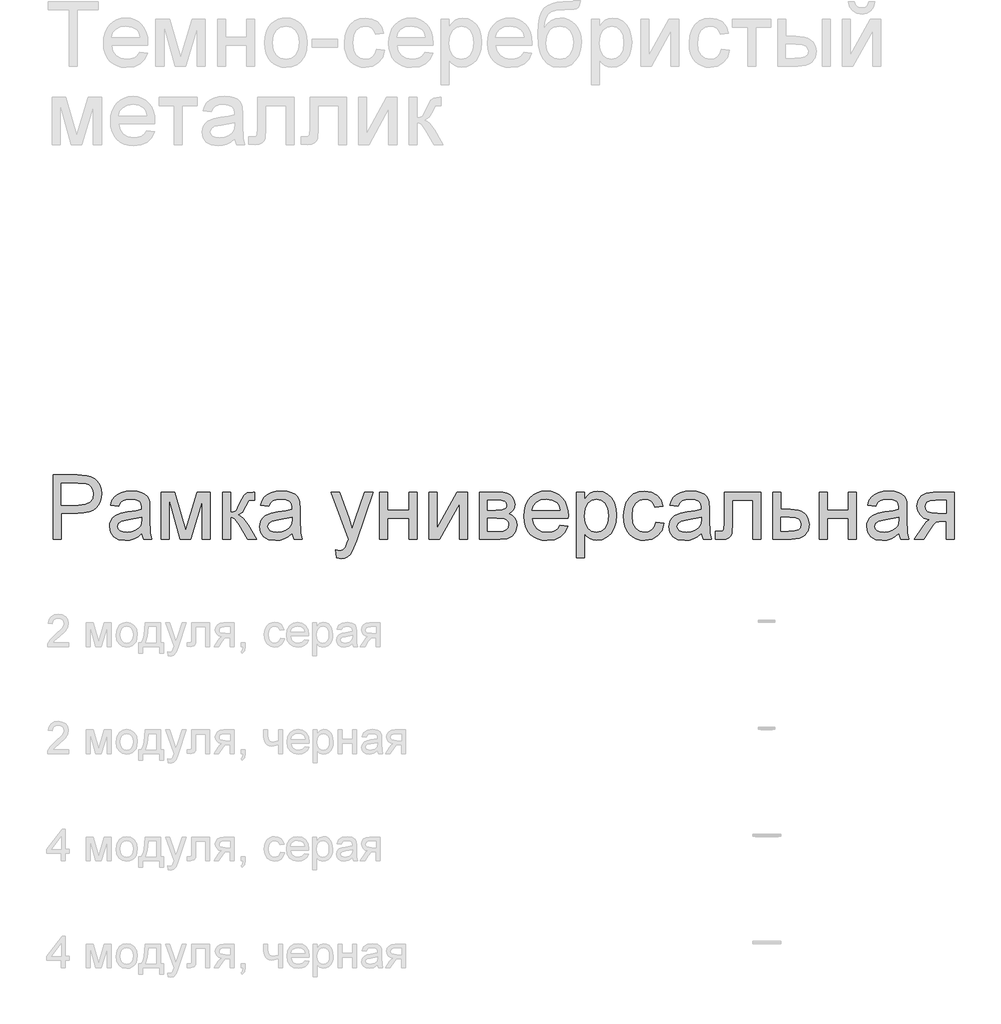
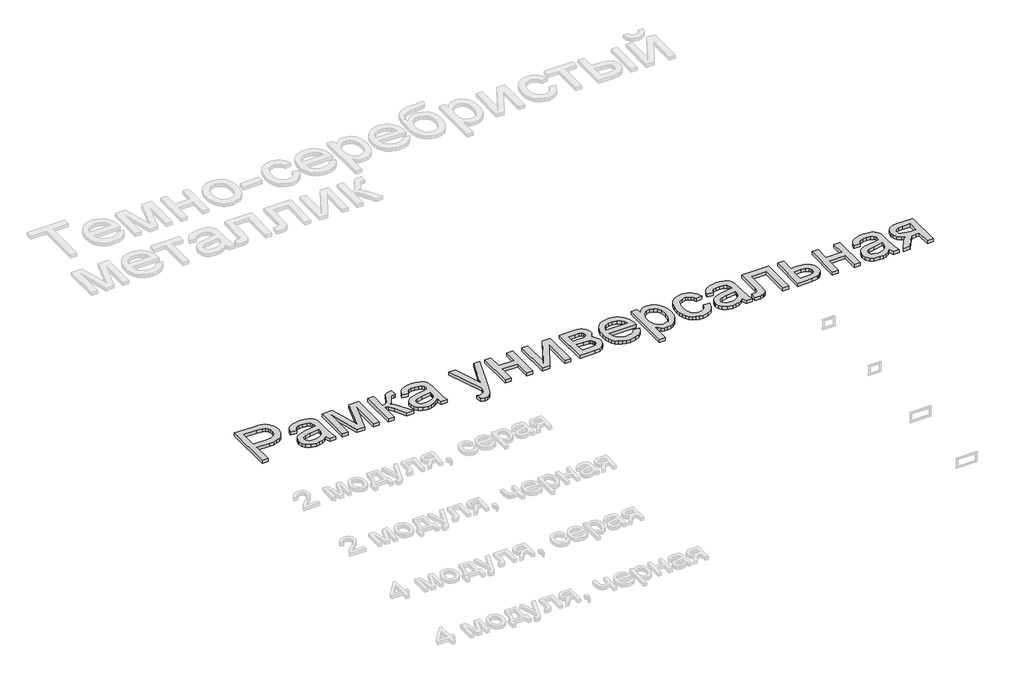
# One storey, part 7 of 168: 1 proxy.
"""IFC4 building model written with IfcOpenShell, lengths in millimetres."""

from ifc_helpers import new_model, si_unit, origin, origin_with_axes, place, context, project, spatial, polyline, outline, extrude, element, save

model = new_model("IFC4")

# Units and contexts
model_context = context("Model", 3, world=origin())
ifc_project = project(units=[si_unit("LENGTHUNIT", "METRE", prefix="MILLI")], contexts=[model_context])

# Site, building, storey
site = spatial("IfcSite", under=ifc_project)
building = spatial("IfcBuilding", under=site)
storey = spatial("IfcBuildingStorey", under=building, Name="Этаж 01", Elevation=0.0)

# Proxy
placement = place(None, origin())
element("IfcBuildingElementProxy", 1, Name="300 мм Arial 2", ObjectType="300 мм Arial 2", at=placement, inside=storey, context=model_context, shape_type="SweptSolid", body=[
    extrude(outline(polyline([(778.8177316, -43175.2343796), (778.8177316, -42873.8654491), (890.5067053, -42873.8654491), (935.5354615, -42876.7349287), (955.6126214, -42882.0968088), (972.13972, -42890.8248091), (985.4478512, -42903.3144029), (995.8681087, -42919.9610631), (1002.6003492, -42939.5967646), (1004.8444294, -42961.053482), (1003.3292154, -42979.5533478), (998.7835735, -42996.5724886), (991.2075037, -43012.1109044), (980.6010059, -43026.1685951), (966.0397767, -43037.8212573), (946.5995125, -43046.1445875), (922.2802134, -43051.1385856), (893.0818793, -43052.8032516), (816.4888479, -43052.8032516), (816.4888479, -43175.2343796), (778.8177316, -43175.2343796)]), holes=[polyline([(816.4888479, -43015.1321353), (895.2891712, -43015.1321353), (928.6928564, -43011.6740445), (950.7657761, -43001.2997723), (963.0714288, -42984.653112), (967.1733131, -42962.3778572), (964.754489, -42945.4552854), (957.4980166, -42931.181464), (946.3052069, -42920.4393097), (932.0773708, -42914.1117394), (894.4062544, -42911.5365655), (816.4888479, -42911.5365655), (816.4888479, -43015.1321353)])]), origin_with_axes(), (0.0, 0.0, 1.0), 20.0),
    extrude(outline(polyline([(1193.2000109, -43146.9810424), (1175.2013843, -43162.4136921), (1156.6693288, -43172.5120528), (1137.1807801, -43178.0854651), (1116.3126739, -43179.9432691), (1084.8311722, -43175.4735029), (1061.6086213, -43162.0642042), (1047.2888146, -43141.7019357), (1042.5155457, -43116.3732604), (1044.3181675, -43100.7566697), (1049.7260328, -43086.5748188), (1058.0677571, -43074.4347129), (1068.6719556, -43064.9433574), (1095.0490946, -43052.5825224), (1127.6434394, -43046.9171397), (1166.1606843, -43040.9574514), (1192.9792817, -43033.9676934), (1193.2000109, -43025.579984), (1190.6064429, -43008.7677768), (1182.8257387, -42997.7681051), (1165.4249203, -42989.6011248), (1141.1814968, -42986.8787981), (1118.7406951, -42988.6906169), (1103.0689221, -42994.1260734), (1092.3819502, -43004.1784489), (1084.8955515, -43019.8410248), (1047.2244352, -43015.1321353), (1053.7635377, -42994.5307436), (1063.5216076, -42978.3439358), (1077.4091529, -42965.9647066), (1096.3366816, -42956.7860509), (1119.4856561, -42951.102274), (1146.0375391, -42949.2076818), (1171.5041703, -42950.8815448), (1191.6916947, -42955.9031341), (1206.9128123, -42963.453912), (1217.4802226, -42972.7153412), (1224.4883746, -42984.1656683), (1229.0317173, -42998.2831399), (1230.8711272, -43031.2453667), (1230.8711272, -43078.1135329), (1232.7841136, -43143.5597398), (1240.2889063, -43175.2343796), (1202.61779, -43175.2343796), (1193.2000109, -43146.9810424)]), holes=[polyline([(1193.2000109, -43071.6388098), (1132.4259053, -43083.1903044), (1100.0155016, -43089.2971455), (1085.3370099, -43099.2299594), (1080.186662, -43113.72451), (1082.9917622, -43124.9265168), (1091.4070629, -43134.1051725), (1105.2486229, -43140.2304078), (1124.3325014, -43142.2721528), (1144.5660112, -43140.0188756), (1162.4450761, -43133.2590439), (1176.9396267, -43123.2986389), (1187.0195934, -43111.4436416), (1191.4893597, -43099.2299594), (1192.9792817, -43082.3073876), (1193.2000109, -43071.6388098)])]), origin_with_axes(), (0.0, 0.0, 1.0), 20.0),
    extrude(outline(polyline([(1282.6689122, -42953.9165713), (1347.4897197, -42953.9165713), (1397.4480947, -43131.0885402), (1451.3060187, -42953.9165713), (1513.4044995, -42953.9165713), (1513.4044995, -43175.2343796), (1475.7333832, -43175.2343796), (1475.7333832, -42997.0323411), (1421.5811535, -43175.2343796), (1372.1378134, -43175.2343796), (1320.3400285, -42988.4974788), (1320.3400285, -43175.2343796), (1282.6689122, -43175.2343796), (1282.6689122, -42953.9165713)])), origin_with_axes(), (0.0, 0.0, 1.0), 20.0),
    extrude(outline(polyline([(1569.911174, -42953.9165713), (1607.5822903, -42953.9165713), (1607.5822903, -43048.0943621), (1622.9045754, -43046.4021049), (1632.8189952, -43041.3253333), (1641.5929808, -43028.0815815), (1653.4939633, -43001.8883835), (1670.6740525, -42967.8592989), (1685.8307907, -42956.7860509), (1713.3851521, -42953.9165713), (1720.5956392, -42953.9165713), (1720.5956392, -42991.8084168), (1710.4420961, -42991.5876876), (1692.0479964, -42995.5608131), (1679.0985502, -43020.3560596), (1663.9050238, -43047.1746571), (1642.6046562, -43060.3080443), (1654.542427, -43065.6101436), (1666.3698331, -43074.9681418), (1689.6935516, -43105.8518353), (1730.0134183, -43175.2343796), (1687.1919541, -43175.2343796), (1647.6814278, -43107.3233633), (1627.8158, -43078.5917795), (1618.5267797, -43073.3770522), (1607.5822903, -43071.6388098), (1607.5822903, -43175.2343796), (1569.911174, -43175.2343796), (1569.911174, -42953.9165713)])), origin_with_axes(), (0.0, 0.0, 1.0), 20.0),
    extrude(outline(polyline([(1894.8245521, -43146.9810424), (1876.8259255, -43162.4136921), (1858.29387, -43172.5120528), (1838.8053213, -43178.0854651), (1817.9372151, -43179.9432691), (1786.4557134, -43175.4735029), (1763.2331625, -43162.0642042), (1748.9133558, -43141.7019357), (1744.1400869, -43116.3732604), (1745.9427087, -43100.7566697), (1751.350574, -43086.5748188), (1759.6922983, -43074.4347129), (1770.2964968, -43064.9433574), (1796.6736358, -43052.5825224), (1829.2679806, -43046.9171397), (1867.7852255, -43040.9574514), (1894.6038229, -43033.9676934), (1894.8245521, -43025.579984), (1892.2309841, -43008.7677768), (1884.4502799, -42997.7681051), (1867.0494615, -42989.6011248), (1842.806038, -42986.8787981), (1820.3652363, -42988.6906169), (1804.6934633, -42994.1260734), (1794.0064914, -43004.1784489), (1786.5200928, -43019.8410248), (1748.8489764, -43015.1321353), (1755.3880789, -42994.5307436), (1765.1461488, -42978.3439358), (1779.0336941, -42965.9647066), (1797.9612228, -42956.7860509), (1821.1101973, -42951.102274), (1847.6620803, -42949.2076818), (1873.1287115, -42950.8815448), (1893.316236, -42955.9031341), (1908.5373535, -42963.453912), (1919.1047638, -42972.7153412), (1926.1129158, -42984.1656683), (1930.6562585, -42998.2831399), (1932.4956684, -43031.2453667), (1932.4956684, -43078.1135329), (1934.4086548, -43143.5597398), (1941.9134475, -43175.2343796), (1904.2423312, -43175.2343796), (1894.8245521, -43146.9810424)]), holes=[polyline([(1894.8245521, -43071.6388098), (1834.0504465, -43083.1903044), (1801.6400428, -43089.2971455), (1786.9615511, -43099.2299594), (1781.8112032, -43113.72451), (1784.6163034, -43124.9265168), (1793.0316041, -43134.1051725), (1806.8731641, -43140.2304078), (1825.9570426, -43142.2721528), (1846.1905524, -43140.0188756), (1864.0696173, -43133.2590439), (1878.5641679, -43123.2986389), (1888.6441346, -43111.4436416), (1893.1139009, -43099.2299594), (1894.6038229, -43082.3073876), (1894.8245521, -43071.6388098)])]), origin_with_axes(), (0.0, 0.0, 1.0), 20.0),
    extrude(outline(polyline([(2102.0156918, -43259.9943913), (2097.3068023, -43223.7212266), (2116.436666, -43227.0321645), (2134.315731, -43222.875098), (2145.2786144, -43211.2868151), (2155.5793103, -43183.5485127), (2158.5223663, -43174.4250392), (2078.4712441, -42953.9165713), (2118.2024996, -42953.9165713), (2160.6560818, -43076.7891577), (2175.4449381, -43125.9381922), (2190.2337943, -43082.5281168), (2233.8645989, -42953.9165713), (2273.3015488, -42953.9165713), (2196.267059, -43180.5318803), (2176.2542784, -43229.6809149), (2166.0087649, -43245.371082), (2154.4020879, -43256.2419949), (2140.9192128, -43262.5879593), (2125.0451047, -43264.7032808), (2102.0156918, -43259.9943913)])), origin_with_axes(), (0.0, 0.0, 1.0), 20.0),
    extrude(outline(polyline([(2304.497942, -42953.9165713), (2342.1690583, -42953.9165713), (2342.1690583, -43038.676583), (2441.0557386, -43038.676583), (2441.0557386, -42953.9165713), (2478.7268549, -42953.9165713), (2478.7268549, -43175.2343796), (2441.0557386, -43175.2343796), (2441.0557386, -43076.3476993), (2342.1690583, -43076.3476993), (2342.1690583, -43175.2343796), (2304.497942, -43175.2343796), (2304.497942, -42953.9165713)])), origin_with_axes(), (0.0, 0.0, 1.0), 20.0),
    extrude(outline(polyline([(2535.2335293, -42953.9165713), (2572.9046456, -42953.9165713), (2572.9046456, -43122.7008307), (2665.4637556, -42953.9165713), (2714.1713318, -42953.9165713), (2714.1713318, -43175.2343796), (2676.5002155, -43175.2343796), (2676.5002155, -43007.4801898), (2584.5297167, -43175.2343796), (2535.2335293, -43175.2343796), (2535.2335293, -42953.9165713)])), origin_with_axes(), (0.0, 0.0, 1.0), 20.0),
    extrude(outline(polyline([(2770.6780062, -42953.9165713), (2853.6721844, -42953.9165713), (2880.3528261, -42955.1765671), (2899.1791872, -42958.9565546), (2913.0299443, -42966.0934653), (2924.783774, -42977.4242308), (2932.8127986, -42992.1854958), (2935.4891401, -43009.6139054), (2933.8704593, -43023.6578005), (2929.014417, -43035.7703152), (2920.902619, -43046.0066317), (2909.5166712, -43054.4219324), (2923.4593988, -43062.2486218), (2934.8269525, -43074.8393831), (2942.3869275, -43091.2009348), (2944.9069192, -43110.3399956), (2938.5241665, -43139.0531854), (2923.3490342, -43159.268301), (2899.32634, -43171.2428599), (2866.4009014, -43175.2343796), (2770.6780062, -43175.2343796), (2770.6780062, -42953.9165713)]), holes=[polyline([(2808.3491226, -43038.676583), (2845.5787805, -43038.676583), (2876.2969271, -43036.7635966), (2891.2329361, -43029.1116511), (2896.1717519, -43022.7840808), (2897.8180238, -43015.2792881), (2894.9301501, -43004.0404931), (2886.2665291, -42996.8116119), (2870.6131502, -42992.8936687), (2846.7560029, -42991.5876876), (2808.3491226, -42991.5876876), (2808.3491226, -43038.676583)]), polyline([(2808.3491226, -43137.5632633), (2854.5551011, -43137.5632633), (2879.7366237, -43135.8618091), (2895.5371554, -43130.7574464), (2904.0168354, -43121.477623), (2907.2358029, -43107.2497869), (2905.6263191, -43097.8228108), (2900.7978679, -43089.1132045), (2893.3850457, -43082.2981906), (2884.022449, -43078.5549913), (2850.8762812, -43076.3476993), (2808.3491226, -43076.3476993), (2808.3491226, -43137.5632633)])]), origin_with_axes(), (0.0, 0.0, 1.0), 20.0),
    extrude(outline(polyline([(3146.9477109, -43109.3099261), (3183.8830632, -43114.0188156), (3170.5749321, -43141.8490885), (3149.3389439, -43162.6528154), (3120.6533453, -43175.6206557), (3084.9963829, -43179.9432691), (3061.6220807, -43178.0785673), (3040.7953612, -43172.4844617), (3022.5162246, -43163.1609524), (3006.7846708, -43150.1080393), (2994.1341286, -43133.689006), (2985.0980271, -43114.2671359), (2979.6763662, -43091.8424291), (2977.8691459, -43066.4148854), (2979.6947603, -43040.1251183), (2985.1716035, -43016.9531512), (2994.2996755, -42996.8989839), (3007.0789763, -42979.9626166), (3022.7691434, -42966.5073326), (3040.6298143, -42956.8964155), (3060.6609889, -42951.1298652), (3082.8626674, -42949.2076818), (3104.3492751, -42951.1252667), (3123.7803423, -42956.8780214), (3141.1558688, -42966.4659459), (3156.4758546, -42979.8890402), (3168.9815432, -42996.7886193), (3177.9141779, -43016.8059984), (3183.2737587, -43039.9411773), (3185.0602856, -43066.1941562), (3184.8395564, -43076.3476993), (3015.5402622, -43076.3476993), (3022.0609706, -43104.5458542), (3037.2085118, -43125.2760046), (3059.0698993, -43138.0231158), (3085.7321469, -43142.2721528), (3105.7817157, -43140.3039842), (3122.6674992, -43134.3994781), (3136.3894977, -43124.1907528), (3146.9477109, -43109.3099261)]), holes=[polyline([(3015.5402622, -43038.676583), (3147.3891693, -43038.676583), (3142.2940037, -43018.774167), (3132.3060075, -43004.5371338), (3110.3434524, -42991.293382), (3082.7155146, -42986.8787981), (3057.3224598, -42990.4012682), (3036.325595, -43000.9686785), (3021.7298768, -43017.4405948), (3015.5402622, -43038.676583)])]), origin_with_axes(), (0.0, 0.0, 1.0), 20.0),
    extrude(outline(polyline([(3222.7314019, -43259.9943913), (3222.7314019, -42953.9165713), (3260.4025182, -42953.9165713), (3260.4025182, -42990.8519236), (3272.6897769, -42972.6325678), (3286.4485635, -42959.6187422), (3302.4882185, -42951.8104469), (3321.6180822, -42949.2076818), (3347.0939104, -42952.8497135), (3369.3691652, -42963.7758088), (3387.5057476, -42981.3237799), (3400.5655584, -43004.8314394), (3408.4566272, -43032.588136), (3411.0869835, -43062.8832183), (3408.1163363, -43095.100484), (3399.204395, -43123.9148413), (3384.636268, -43147.8639592), (3364.6970639, -43165.4855067), (3341.4745129, -43176.3288285), (3317.0563455, -43179.9432691), (3299.7383006, -43177.524445), (3284.2780597, -43170.2679727), (3271.0435049, -43159.3142863), (3260.4025182, -43145.80382), (3260.4025182, -43259.9943913), (3222.7314019, -43259.9943913)]), holes=[polyline([(3260.4025182, -43066.341309), (3264.4768113, -43100.1128762), (3276.6996906, -43123.7309003), (3294.7351054, -43137.6368397), (3316.2470051, -43142.2721528), (3338.1083927, -43137.4712928), (3356.60366, -43123.0687127), (3369.2128154, -43098.5861659), (3373.4158671, -43063.5454059), (3369.3139829, -43029.9577797), (3357.0083302, -43006.0086618), (3339.0005065, -42991.661264), (3317.7921095, -42986.8787981), (3296.500939, -42991.9647666), (3277.8033366, -43007.2226724), (3264.7527228, -43032.1742687), (3260.4025182, -43066.341309)])]), origin_with_axes(), (0.0, 0.0, 1.0), 20.0),
    extrude(outline(polyline([(3594.7336754, -43095.1832574), (3632.4047917, -43099.892147), (3621.9017608, -43133.3969997), (3602.1648917, -43158.716478), (3575.0519887, -43174.6365714), (3542.4208557, -43179.9432691), (3521.2929329, -43178.0923628), (3502.3493094, -43172.539644), (3485.5899853, -43163.2851125), (3471.0149605, -43150.3287685), (3459.2174447, -43133.9143337), (3450.7906478, -43114.28553), (3445.7345696, -43091.4423574), (3444.0492102, -43065.3848158), (3446.9278868, -43031.861569), (3455.5639167, -43002.8080885), (3470.0952555, -42979.3464142), (3490.659859, -42962.5985864), (3515.2619674, -42952.5554079), (3541.9058209, -42949.2076818), (3573.7368106, -42953.8062067), (3599.1850476, -42967.6017815), (3617.4411916, -42989.8586422), (3627.6959022, -43019.8410248), (3590.0247859, -43024.5499144), (3583.1913778, -43008.1147862), (3572.5503911, -42996.3333653), (3558.690437, -42989.2424399), (3542.2001265, -42986.8787981), (3517.8555355, -42991.5325053), (3498.5325337, -43005.493627), (3485.9233783, -43029.5163213), (3481.7203265, -43064.3547462), (3485.8314078, -43099.6622207), (3498.1646517, -43123.7676885), (3517.1381656, -43137.6460367), (3541.1700569, -43142.2721528), (3560.6769997, -43139.3842792), (3576.6706695, -43130.7206582), (3588.3049376, -43116.0605607), (3594.7336754, -43095.1832574)])), origin_with_axes(), (0.0, 0.0, 1.0), 20.0),
    extrude(outline(polyline([(3806.6337047, -43146.9810424), (3788.6350781, -43162.4136921), (3770.1030225, -43172.5120528), (3750.6144739, -43178.0854651), (3729.7463677, -43179.9432691), (3698.2648659, -43175.4735029), (3675.042315, -43162.0642042), (3660.7225083, -43141.7019357), (3655.9492394, -43116.3732604), (3657.7518612, -43100.7566697), (3663.1597265, -43086.5748188), (3671.5014508, -43074.4347129), (3682.1056493, -43064.9433574), (3708.4827884, -43052.5825224), (3741.0771331, -43046.9171397), (3779.594378, -43040.9574514), (3806.4129755, -43033.9676934), (3806.6337047, -43025.579984), (3804.0401366, -43008.7677768), (3796.2594324, -42997.7681051), (3778.858614, -42989.6011248), (3754.6151905, -42986.8787981), (3732.1743888, -42988.6906169), (3716.5026158, -42994.1260734), (3705.8156439, -43004.1784489), (3698.3292453, -43019.8410248), (3660.658129, -43015.1321353), (3667.1972314, -42994.5307436), (3676.9553014, -42978.3439358), (3690.8428467, -42965.9647066), (3709.7703753, -42956.7860509), (3732.9193499, -42951.102274), (3759.4712329, -42949.2076818), (3784.937864, -42950.8815448), (3805.1253885, -42955.9031341), (3820.346506, -42963.453912), (3830.9139163, -42972.7153412), (3837.9220684, -42984.1656683), (3842.465411, -42998.2831399), (3844.304821, -43031.2453667), (3844.304821, -43078.1135329), (3846.2178073, -43143.5597398), (3853.7226, -43175.2343796), (3816.0514837, -43175.2343796), (3806.6337047, -43146.9810424)]), holes=[polyline([(3806.6337047, -43071.6388098), (3745.8595991, -43083.1903044), (3713.4491953, -43089.2971455), (3698.7707037, -43099.2299594), (3693.6203557, -43113.72451), (3696.425456, -43124.9265168), (3704.8407566, -43134.1051725), (3718.6823167, -43140.2304078), (3737.7661952, -43142.2721528), (3757.9997049, -43140.0188756), (3775.8787699, -43133.2590439), (3790.3733205, -43123.2986389), (3800.4532871, -43111.4436416), (3804.9230534, -43099.2299594), (3806.4129755, -43082.3073876), (3806.6337047, -43071.6388098)])]), origin_with_axes(), (0.0, 0.0, 1.0), 20.0),
    extrude(outline(polyline([(3914.938164, -42953.9165713), (4084.4581874, -42953.9165713), (4084.4581874, -43175.0136504), (4046.7870711, -43175.0136504), (4046.7870711, -42991.5876876), (3952.6092804, -42991.5876876), (3952.6092804, -43097.1698202), (3950.0708946, -43145.8773964), (3945.3160198, -43156.9046592), (3936.128167, -43166.4419999), (3922.1854394, -43173.0362847), (3903.1659402, -43175.2343796), (3872.5581582, -43173.3213932), (3872.5581582, -43137.5632633), (3889.4071536, -43137.5632633), (3906.44009, -43135.2456067), (3913.2459069, -43127.8879668), (3914.938164, -43095.0361046), (3914.938164, -42953.9165713)])), origin_with_axes(), (0.0, 0.0, 1.0), 20.0),
    extrude(outline(polyline([(4140.9648619, -42953.9165713), (4178.6359782, -42953.9165713), (4178.6359782, -43033.9676934), (4222.0460536, -43033.9676934), (4259.6803817, -43038.68578), (4274.8279229, -43044.5833883), (4287.5290488, -43052.8400398), (4297.5722272, -43063.1706261), (4304.7459261, -43075.2900386), (4310.4848853, -43104.8953421), (4305.6012518, -43131.8518953), (4290.9503513, -43154.5961997), (4279.7184542, -43163.6254034), (4265.5572966, -43170.0748346), (4228.4472003, -43175.2343796), (4140.9648619, -43175.2343796), (4140.9648619, -42953.9165713)]), holes=[polyline([(4178.6359782, -43137.5632633), (4213.8054969, -43137.5632633), (4241.0931439, -43135.5858976), (4259.2389233, -43129.6538004), (4269.4200575, -43119.5278485), (4272.813769, -43104.9689185), (4270.3029743, -43092.6632658), (4262.7705905, -43081.7923528), (4246.6297679, -43074.1771955), (4218.2936573, -43071.6388098), (4178.6359782, -43071.6388098), (4178.6359782, -43137.5632633)])]), origin_with_axes(), (0.0, 0.0, 1.0), 20.0),
    extrude(outline(polyline([(4357.5737806, -42953.9165713), (4395.2448969, -42953.9165713), (4395.2448969, -43038.676583), (4494.1315773, -43038.676583), (4494.1315773, -42953.9165713), (4531.8026936, -42953.9165713), (4531.8026936, -43175.2343796), (4494.1315773, -43175.2343796), (4494.1315773, -43076.3476993), (4395.2448969, -43076.3476993), (4395.2448969, -43175.2343796), (4357.5737806, -43175.2343796), (4357.5737806, -42953.9165713)])), origin_with_axes(), (0.0, 0.0, 1.0), 20.0),
    extrude(outline(polyline([(4729.5760542, -43146.9810424), (4711.5774276, -43162.4136921), (4693.045372, -43172.5120528), (4673.5568233, -43178.0854651), (4652.6887172, -43179.9432691), (4621.2072154, -43175.4735029), (4597.9846645, -43162.0642042), (4583.6648578, -43141.7019357), (4578.8915889, -43116.3732604), (4580.6942107, -43100.7566697), (4586.102076, -43086.5748188), (4594.4438003, -43074.4347129), (4605.0479988, -43064.9433574), (4631.4251379, -43052.5825224), (4664.0194826, -43046.9171397), (4702.5367275, -43040.9574514), (4729.355325, -43033.9676934), (4729.5760542, -43025.579984), (4726.9824861, -43008.7677768), (4719.2017819, -42997.7681051), (4701.8009635, -42989.6011248), (4677.55754, -42986.8787981), (4655.1167383, -42988.6906169), (4639.4449653, -42994.1260734), (4628.7579934, -43004.1784489), (4621.2715948, -43019.8410248), (4583.6004785, -43015.1321353), (4590.1395809, -42994.5307436), (4599.8976509, -42978.3439358), (4613.7851962, -42965.9647066), (4632.7127248, -42956.7860509), (4655.8616994, -42951.102274), (4682.4135824, -42949.2076818), (4707.8802135, -42950.8815448), (4728.067738, -42955.9031341), (4743.2888555, -42963.453912), (4753.8562658, -42972.7153412), (4760.8644179, -42984.1656683), (4765.4077605, -42998.2831399), (4767.2471705, -43031.2453667), (4767.2471705, -43078.1135329), (4769.1601568, -43143.5597398), (4776.6649495, -43175.2343796), (4738.9938332, -43175.2343796), (4729.5760542, -43146.9810424)]), holes=[polyline([(4729.5760542, -43071.6388098), (4668.8019486, -43083.1903044), (4636.3915448, -43089.2971455), (4621.7130532, -43099.2299594), (4616.5627052, -43113.72451), (4619.3678055, -43124.9265168), (4627.7831061, -43134.1051725), (4641.6246662, -43140.2304078), (4660.7085447, -43142.2721528), (4680.9420544, -43140.0188756), (4698.8211194, -43133.2590439), (4713.31567, -43123.2986389), (4723.3956366, -43111.4436416), (4727.8654029, -43099.2299594), (4729.355325, -43082.3073876), (4729.5760542, -43071.6388098)])]), origin_with_axes(), (0.0, 0.0, 1.0), 20.0),
    extrude(outline(polyline([(4988.5649788, -42953.9165713), (4988.5649788, -43175.2343796), (4950.8938625, -43175.2343796), (4950.8938625, -43090.4743679), (4930.3660471, -43090.4743679), (4902.4070155, -43095.2568338), (4891.2417969, -43105.6862884), (4876.140241, -43127.4097202), (4846.1210702, -43175.2343796), (4802.563842, -43175.2343796), (4840.3821111, -43114.7545796), (4857.0839537, -43093.0495419), (4872.4614211, -43083.4110336), (4846.7096814, -43075.5199648), (4828.6098873, -43060.5287735), (4817.9045212, -43040.5895694), (4814.3360659, -43017.8544621), (4819.2105023, -42992.0659342), (4833.8338116, -42971.6484835), (4857.690959, -42958.3495493), (4890.2669097, -42953.9165713), (4988.5649788, -42953.9165713)]), holes=[polyline([(4950.8938625, -42991.5876876), (4901.2297931, -42991.5876876), (4875.579221, -42993.7673884), (4861.020291, -43000.3064909), (4854.2604594, -43009.7702552), (4852.0071822, -43020.7239416), (4855.3273172, -43035.0805365), (4865.2877222, -43045.0409415), (4883.691019, -43050.8626741), (4912.3398294, -43052.8032516), (4950.8938625, -43052.8032516), (4950.8938625, -42991.5876876)])]), origin_with_axes(), (0.0, 0.0, 1.0), 20.0),
])

save(model, "model.ifc")
